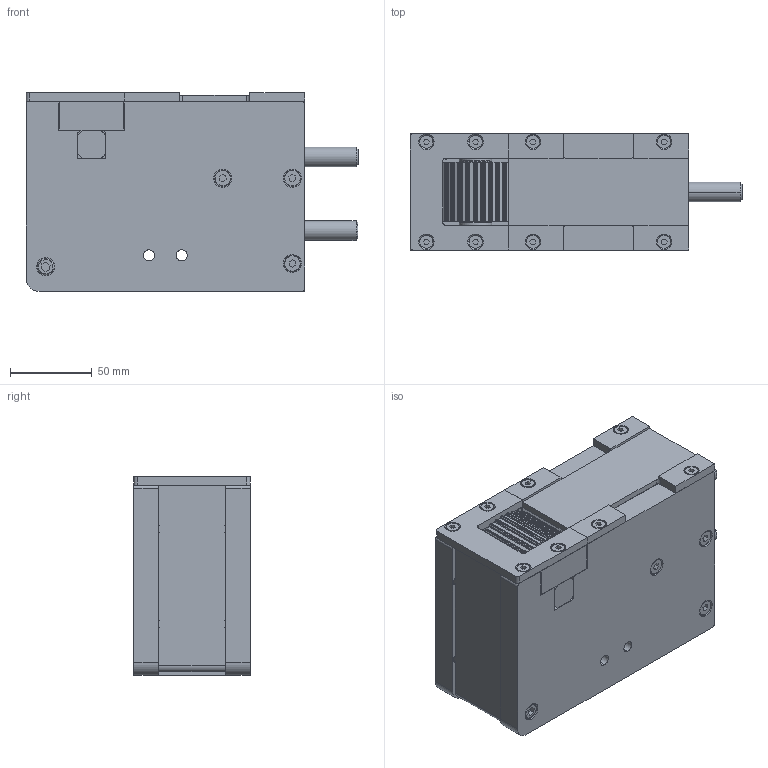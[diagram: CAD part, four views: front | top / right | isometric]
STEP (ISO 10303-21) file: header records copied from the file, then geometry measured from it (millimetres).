
FILE_DESCRIPTION (( 'STEP AP203' ), '1' );
FILE_NAME ('112.400.200.STEP', '2018-03-09T15:11:59', ( '' ), ( '' ), 'SwSTEP 2.0', 'SolidWorks 2016', '' );
FILE_SCHEMA (( 'CONFIG_CONTROL_DESIGN' ));
Length unit declared in the file: millimetre
Products named in the file (27): 61904; 6201_2RSL_PART2; 112.400.015; 112.400.018; 112.400.011; VITI TCEI UNI 5931_M6x60 UNI 5931; 112.400.012; 112.400.003; 112.400.009; 6201_2RSL_PART3; 20UNI7435-75; 112.400.016; VITI TCEI UNI 5931_M6x25 UNI 5931; 6201_2RSL_PART4; 6201_2RSL_PART5; VITI TCEI TESTA BASSA DIN 7984_M12x40 UNI 5931; 112.100.010; AnelloArrestoxAlberi12; 6201_2RSL; 6201_2RSL_PART1; 112.400.200; VITI TSEI UNI 5933_M4x16 UNI 5933; 112.400.008; 084.301.000 VITI ALUSIC_084.301.001; 112.400.013; 112.400.014; 112.400.017
Assembly tree (53 placements, depth 3):
  112.400.200
    6201_2RSL  x2
      6201_2RSL_PART5
      6201_2RSL_PART4
      6201_2RSL_PART3
      6201_2RSL_PART2
      6201_2RSL_PART1
    112.400.014
    AnelloArrestoxAlberi12  x2
    112.400.012
    112.400.013
    112.400.003
    112.400.018
    112.400.008
    112.400.017
    112.400.011
    61904  x2
    112.400.016
    112.400.009
    112.400.015  x2
    VITI TCEI TESTA BASSA DIN 7984_M12x40 UNI 5931  x2
    VITI TSEI UNI 5933_M4x16 UNI 5933  x8
    084.301.000 VITI ALUSIC_084.301.001  x6
    VITI TCEI UNI 5931_M6x60 UNI 5931
    20UNI7435-75  x2
    VITI TCEI UNI 5931_M6x25 UNI 5931  x4
    112.100.010
Bounding box: 202.5 x 71 x 121.2 mm (x, y, z)
Volume: 889404.2 mm3; surface area: 250707.8 mm2
Topology: 60 solids, 86 shells, 1703 faces, 4286 edges, 2718 vertices
Faces by surface type: cylinder 682, plane 589, cone 246, torus 114, sphere 72
Entity records: 40040 total; most frequent: DIRECTION 6807, CARTESIAN_POINT 6501, ORIENTED_EDGE 5954, EDGE_CURVE 2977, AXIS2_PLACEMENT_3D 2591, VERTEX_POINT 1925, VECTOR 1625, LINE 1625
